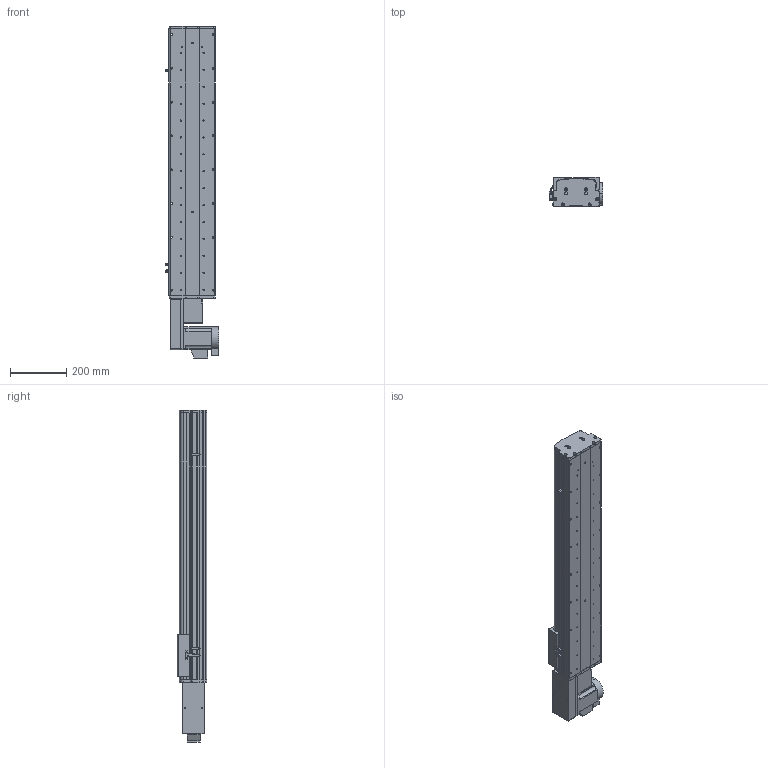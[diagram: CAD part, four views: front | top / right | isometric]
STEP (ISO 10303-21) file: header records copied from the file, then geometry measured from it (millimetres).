
FILE_DESCRIPTION (( 'STEP AP214' ), '1' );
FILE_NAME ('KSD165B-S700-MLB-CM.STEP', '2017-10-16T06:08:18', ( '微软用户' ), ( '微软中国' ), 'SwSTEP 2.0', 'SolidWorks 2014', '' );
FILE_SCHEMA (( 'AUTOMOTIVE_DESIGN' ));
Length unit declared in the file: millimetre
Products named in the file (17): HTPA26S5M250-A-H8 750W萇儂蚚; HTPA26S5M250-A-H8 400W萇儂蚚 ; 130宽模组马达安装板连板左右折同步带; 130宽模组保护罩上下左右折-同步带; 165宽马达安装板同步带左-改; KSD165模组-同步带防尘盖1-700行程-最新版; KSD165模组同步带底板-700行程-最新; 拸秶雄ん750W侜督萇儂; U倰嫖萇假蚾璃; U倰嫖萇EEㄜSX672; 覜茼え68遵圉猾敕; KSD165模组-同步带-防撞垫2; KSD165模组同步带-防撞垫1; KSD165耀郪-ヶ傷啣1-肮祭湍; KSD165模组-后端板1-同步带; KSD165模组-同步带滑动座-最新版; KSD165B-S700-MLB-CM
Assembly tree (20 placements, depth 2):
  KSD165B-S700-MLB-CM
    KSD165模组-同步带滑动座-最新版
    KSD165模组-后端板1-同步带
    KSD165耀郪-ヶ傷啣1-肮祭湍
    KSD165模组同步带-防撞垫1
    KSD165模组-同步带-防撞垫2
    覜茼え68遵圉猾敕
    U倰嫖萇EEㄜSX672  x3
    U倰嫖萇假蚾璃  x3
    拸秶雄ん750W侜督萇儂
    KSD165模组同步带底板-700行程-最新
    KSD165模组-同步带防尘盖1-700行程-最新版
    165宽马达安装板同步带左-改
    130宽模组保护罩上下左右折-同步带
    130宽模组马达安装板连板左右折同步带
    HTPA26S5M250-A-H8 400W萇儂蚚 
    HTPA26S5M250-A-H8 750W萇儂蚚
Bounding box: 191.2 x 104 x 1178 mm (x, y, z)
Volume: 6564987.9 mm3; surface area: 1521959 mm2
Topology: 21 solids, 22 shells, 1929 faces, 5436 edges, 3548 vertices
Faces by surface type: cylinder 1233, plane 584, cone 112
Entity records: 62296 total; most frequent: CARTESIAN_POINT 12750, DIRECTION 10268, ORIENTED_EDGE 9532, EDGE_CURVE 4766, AXIS2_PLACEMENT_3D 4024, VERTEX_POINT 3140, CIRCLE 2292, VECTOR 2220
